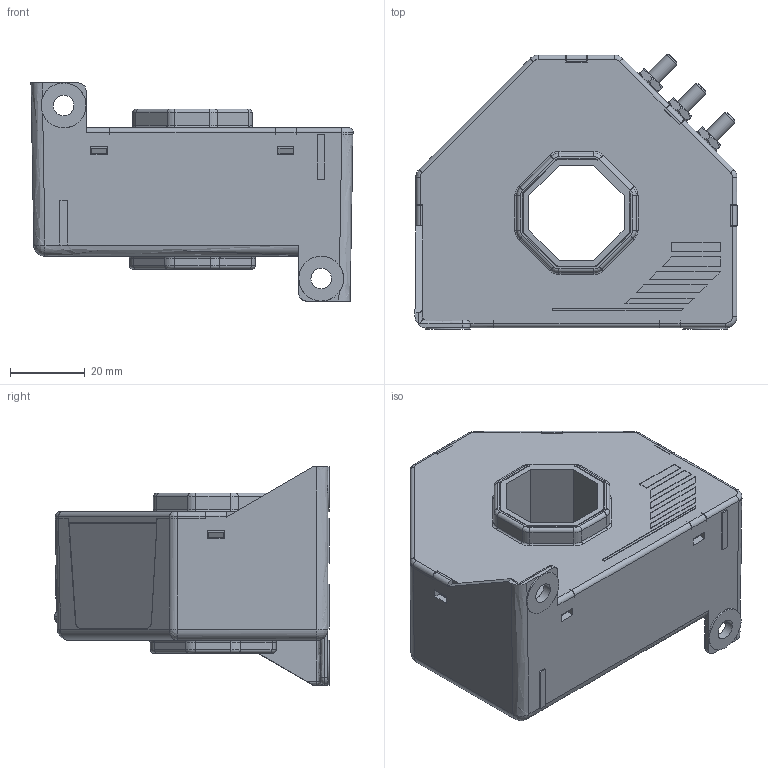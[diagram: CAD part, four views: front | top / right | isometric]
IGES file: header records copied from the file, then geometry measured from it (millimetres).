
Start section: Elysium IGES Interface
Global section: file name: U:\BLACKBOX DIVERSES\LA305_S_SP4.igs; native system: Creo Elements/Direct Modeling 17.0E  05-Feb-2012; preprocessor: Creo Element/Direct IGES_3D V2.2; author: Unknown; organization: Unknown; date: 20131015.073354; units: millimetre
Bounding box: 86.25 x 73.61 x 58.4 mm (x, y, z)
Volume: 161955.8 mm3; surface area: 40396.6 mm2
Topology: 1 solids, 21 shells, 1451 faces, 3775 edges, 2415 vertices
Faces by surface type: bspline 1451
